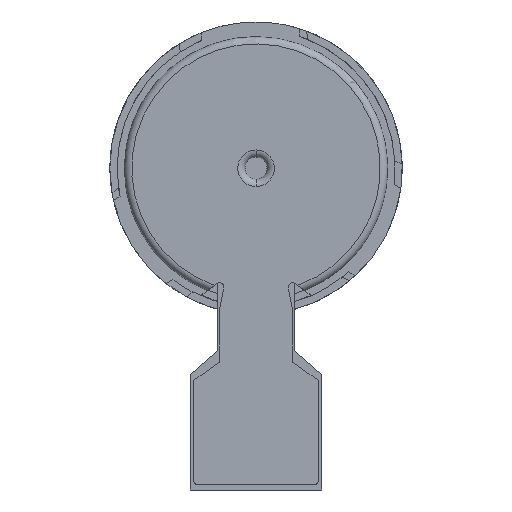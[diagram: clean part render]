
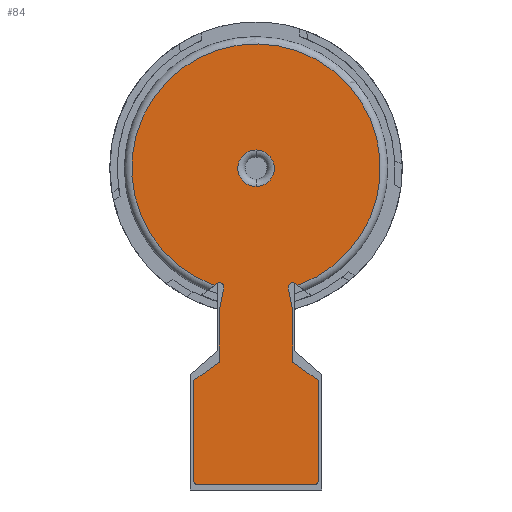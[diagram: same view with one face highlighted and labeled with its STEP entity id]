
A CAD part, front view. The second image highlights one B-rep face of the part: STEP entity #84.
In plain terms, the highlighted planar face has unit normal (0, -1, 0).
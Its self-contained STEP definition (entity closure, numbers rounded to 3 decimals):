
#45 = VERTEX_POINT('',#46);
#46 = CARTESIAN_POINT('',(0.,0.,
    0.5));
#65 = VERTEX_POINT('',#66);
#66 = CARTESIAN_POINT('',(0.,0.,
    -0.5));
#73 = EDGE_CURVE('',#65,#45,#74,.T.);
#74 = CIRCLE('',#75,0.5);
#75 = AXIS2_PLACEMENT_3D('',#76,#77,#78);
#76 = CARTESIAN_POINT('',(0.,0.,0.));
#77 = DIRECTION('',(0.,-1.,0.));
#78 = DIRECTION('',(0.,0.,-1.));
#84 = ADVANCED_FACE('',(#85,#256),#266,.F.);
#85 = FACE_BOUND('',#86,.F.);
#86 = EDGE_LOOP('',(#87,#97,#105,#114,#122,#131,#139,#147,#155,#163,#172
    ,#181,#189,#198,#207,#216,#224,#233,#242,#250));
#87 = ORIENTED_EDGE('',*,*,#88,.T.);
#88 = EDGE_CURVE('',#89,#91,#93,.T.);
#89 = VERTEX_POINT('',#90);
#90 = CARTESIAN_POINT('',(1.,0.,-5.3));
#91 = VERTEX_POINT('',#92);
#92 = CARTESIAN_POINT('',(1.7,0.,-5.8));
#93 = LINE('',#94,#95);
#94 = CARTESIAN_POINT('',(1.,0.,-5.3));
#95 = VECTOR('',#96,1.);
#96 = DIRECTION('',(0.814,0.,-0.581));
#97 = ORIENTED_EDGE('',*,*,#98,.F.);
#98 = EDGE_CURVE('',#99,#91,#101,.T.);
#99 = VERTEX_POINT('',#100);
#100 = CARTESIAN_POINT('',(1.7,0.,-8.55));
#101 = LINE('',#102,#103);
#102 = CARTESIAN_POINT('',(1.7,0.,-8.55));
#103 = VECTOR('',#104,1.);
#104 = DIRECTION('',(0.,0.,1.));
#105 = ORIENTED_EDGE('',*,*,#106,.T.);
#106 = EDGE_CURVE('',#99,#107,#109,.T.);
#107 = VERTEX_POINT('',#108);
#108 = CARTESIAN_POINT('',(1.6,0.,-8.65));
#109 = CIRCLE('',#110,0.1);
#110 = AXIS2_PLACEMENT_3D('',#111,#112,#113);
#111 = CARTESIAN_POINT('',(1.6,0.,-8.55));
#112 = DIRECTION('',(0.,1.,0.));
#113 = DIRECTION('',(1.,-0.,0.));
#114 = ORIENTED_EDGE('',*,*,#115,.F.);
#115 = EDGE_CURVE('',#116,#107,#118,.T.);
#116 = VERTEX_POINT('',#117);
#117 = CARTESIAN_POINT('',(-1.6,0.,-8.65));
#118 = LINE('',#119,#120);
#119 = CARTESIAN_POINT('',(-1.6,0.,-8.65));
#120 = VECTOR('',#121,1.);
#121 = DIRECTION('',(1.,0.,0.));
#122 = ORIENTED_EDGE('',*,*,#123,.T.);
#123 = EDGE_CURVE('',#116,#124,#126,.T.);
#124 = VERTEX_POINT('',#125);
#125 = CARTESIAN_POINT('',(-1.7,0.,-8.55));
#126 = CIRCLE('',#127,0.1);
#127 = AXIS2_PLACEMENT_3D('',#128,#129,#130);
#128 = CARTESIAN_POINT('',(-1.6,0.,-8.55));
#129 = DIRECTION('',(0.,1.,0.));
#130 = DIRECTION('',(0.,0.,-1.));
#131 = ORIENTED_EDGE('',*,*,#132,.T.);
#132 = EDGE_CURVE('',#124,#133,#135,.T.);
#133 = VERTEX_POINT('',#134);
#134 = CARTESIAN_POINT('',(-1.7,0.,-5.8));
#135 = LINE('',#136,#137);
#136 = CARTESIAN_POINT('',(-1.7,0.,-8.55));
#137 = VECTOR('',#138,1.);
#138 = DIRECTION('',(0.,0.,1.));
#139 = ORIENTED_EDGE('',*,*,#140,.T.);
#140 = EDGE_CURVE('',#133,#141,#143,.T.);
#141 = VERTEX_POINT('',#142);
#142 = CARTESIAN_POINT('',(-1.,0.,-5.3));
#143 = LINE('',#144,#145);
#144 = CARTESIAN_POINT('',(-1.7,0.,-5.8));
#145 = VECTOR('',#146,1.);
#146 = DIRECTION('',(0.814,0.,0.581));
#147 = ORIENTED_EDGE('',*,*,#148,.T.);
#148 = EDGE_CURVE('',#141,#149,#151,.T.);
#149 = VERTEX_POINT('',#150);
#150 = CARTESIAN_POINT('',(-1.,0.,-3.875));
#151 = LINE('',#152,#153);
#152 = CARTESIAN_POINT('',(-1.,0.,-5.3));
#153 = VECTOR('',#154,1.);
#154 = DIRECTION('',(0.,0.,1.));
#155 = ORIENTED_EDGE('',*,*,#156,.T.);
#156 = EDGE_CURVE('',#149,#157,#159,.T.);
#157 = VERTEX_POINT('',#158);
#158 = CARTESIAN_POINT('',(-0.885,0.,-3.274));
#159 = LINE('',#160,#161);
#160 = CARTESIAN_POINT('',(-1.,0.,-3.875));
#161 = VECTOR('',#162,1.);
#162 = DIRECTION('',(0.188,0.,0.982));
#163 = ORIENTED_EDGE('',*,*,#164,.T.);
#164 = EDGE_CURVE('',#157,#165,#167,.T.);
#165 = VERTEX_POINT('',#166);
#166 = CARTESIAN_POINT('',(-1.,0.,-3.132));
#167 = CIRCLE('',#168,0.117);
#168 = AXIS2_PLACEMENT_3D('',#169,#170,#171);
#169 = CARTESIAN_POINT('',(-1.,0.,-3.25));
#170 = DIRECTION('',(0.,-1.,0.));
#171 = DIRECTION('',(0.978,0.,-0.21));
#172 = ORIENTED_EDGE('',*,*,#173,.T.);
#173 = EDGE_CURVE('',#165,#174,#176,.T.);
#174 = VERTEX_POINT('',#175);
#175 = CARTESIAN_POINT('',(-1.07,0.,-3.155));
#176 = CIRCLE('',#177,0.117);
#177 = AXIS2_PLACEMENT_3D('',#178,#179,#180);
#178 = CARTESIAN_POINT('',(-1.,0.,-3.25));
#179 = DIRECTION('',(0.,-1.,0.));
#180 = DIRECTION('',(0.,0.,1.));
#181 = ORIENTED_EDGE('',*,*,#182,.T.);
#182 = EDGE_CURVE('',#174,#183,#185,.T.);
#183 = VERTEX_POINT('',#184);
#184 = CARTESIAN_POINT('',(-1.136,0.,
    -3.205));
#185 = LINE('',#186,#187);
#186 = CARTESIAN_POINT('',(-1.07,0.,
    -3.155));
#187 = VECTOR('',#188,1.);
#188 = DIRECTION('',(-0.803,0.,-0.595
    ));
#189 = ORIENTED_EDGE('',*,*,#190,.T.);
#190 = EDGE_CURVE('',#183,#191,#193,.T.);
#191 = VERTEX_POINT('',#192);
#192 = CARTESIAN_POINT('',(-1.028,0.,
    3.241));
#193 = CIRCLE('',#194,3.4);
#194 = AXIS2_PLACEMENT_3D('',#195,#196,#197);
#195 = CARTESIAN_POINT('',(0.,0.,0.));
#196 = DIRECTION('',(0.,1.,0.));
#197 = DIRECTION('',(-0.334,0.,-0.943)
  );
#198 = ORIENTED_EDGE('',*,*,#199,.T.);
#199 = EDGE_CURVE('',#191,#200,#202,.T.);
#200 = VERTEX_POINT('',#201);
#201 = CARTESIAN_POINT('',(1.136,0.,
    3.205));
#202 = CIRCLE('',#203,3.4);
#203 = AXIS2_PLACEMENT_3D('',#204,#205,#206);
#204 = CARTESIAN_POINT('',(0.,0.,0.));
#205 = DIRECTION('',(0.,1.,0.));
#206 = DIRECTION('',(-0.302,0.,0.953)
  );
#207 = ORIENTED_EDGE('',*,*,#208,.T.);
#208 = EDGE_CURVE('',#200,#209,#211,.T.);
#209 = VERTEX_POINT('',#210);
#210 = CARTESIAN_POINT('',(1.136,0.,
    -3.205));
#211 = CIRCLE('',#212,3.4);
#212 = AXIS2_PLACEMENT_3D('',#213,#214,#215);
#213 = CARTESIAN_POINT('',(0.,0.,0.));
#214 = DIRECTION('',(0.,1.,0.));
#215 = DIRECTION('',(0.334,0.,0.943));
#216 = ORIENTED_EDGE('',*,*,#217,.T.);
#217 = EDGE_CURVE('',#209,#218,#220,.T.);
#218 = VERTEX_POINT('',#219);
#219 = CARTESIAN_POINT('',(1.07,0.,
    -3.155));
#220 = LINE('',#221,#222);
#221 = CARTESIAN_POINT('',(1.136,0.,
    -3.205));
#222 = VECTOR('',#223,1.);
#223 = DIRECTION('',(-0.803,0.,0.595)
  );
#224 = ORIENTED_EDGE('',*,*,#225,.T.);
#225 = EDGE_CURVE('',#218,#226,#228,.T.);
#226 = VERTEX_POINT('',#227);
#227 = CARTESIAN_POINT('',(1.,0.,-3.132));
#228 = CIRCLE('',#229,0.117);
#229 = AXIS2_PLACEMENT_3D('',#230,#231,#232);
#230 = CARTESIAN_POINT('',(1.,0.,-3.25));
#231 = DIRECTION('',(0.,-1.,0.));
#232 = DIRECTION('',(0.596,0.,0.803));
#233 = ORIENTED_EDGE('',*,*,#234,.T.);
#234 = EDGE_CURVE('',#226,#235,#237,.T.);
#235 = VERTEX_POINT('',#236);
#236 = CARTESIAN_POINT('',(0.885,0.,-3.274));
#237 = CIRCLE('',#238,0.117);
#238 = AXIS2_PLACEMENT_3D('',#239,#240,#241);
#239 = CARTESIAN_POINT('',(1.,0.,-3.25));
#240 = DIRECTION('',(0.,-1.,0.));
#241 = DIRECTION('',(0.,0.,1.));
#242 = ORIENTED_EDGE('',*,*,#243,.T.);
#243 = EDGE_CURVE('',#235,#244,#246,.T.);
#244 = VERTEX_POINT('',#245);
#245 = CARTESIAN_POINT('',(1.,0.,-3.875));
#246 = LINE('',#247,#248);
#247 = CARTESIAN_POINT('',(0.885,0.,-3.274));
#248 = VECTOR('',#249,1.);
#249 = DIRECTION('',(0.188,0.,-0.982));
#250 = ORIENTED_EDGE('',*,*,#251,.F.);
#251 = EDGE_CURVE('',#89,#244,#252,.T.);
#252 = LINE('',#253,#254);
#253 = CARTESIAN_POINT('',(1.,0.,-5.3));
#254 = VECTOR('',#255,1.);
#255 = DIRECTION('',(0.,0.,1.));
#256 = FACE_BOUND('',#257,.F.);
#257 = EDGE_LOOP('',(#258,#265));
#258 = ORIENTED_EDGE('',*,*,#259,.T.);
#259 = EDGE_CURVE('',#45,#65,#260,.T.);
#260 = CIRCLE('',#261,0.5);
#261 = AXIS2_PLACEMENT_3D('',#262,#263,#264);
#262 = CARTESIAN_POINT('',(0.,0.,0.));
#263 = DIRECTION('',(0.,-1.,0.));
#264 = DIRECTION('',(0.,0.,1.));
#265 = ORIENTED_EDGE('',*,*,#73,.T.);
#266 = PLANE('',#267);
#267 = AXIS2_PLACEMENT_3D('',#268,#269,#270);
#268 = CARTESIAN_POINT('',(0.,0.,-2.623));
#269 = DIRECTION('',(0.,1.,0.));
#270 = DIRECTION('',(0.,-0.,1.));
